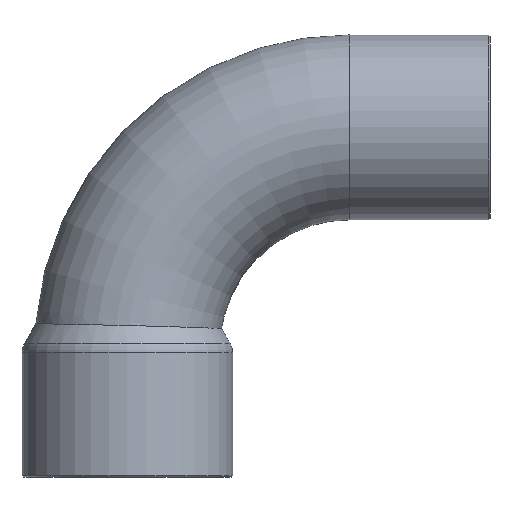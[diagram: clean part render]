
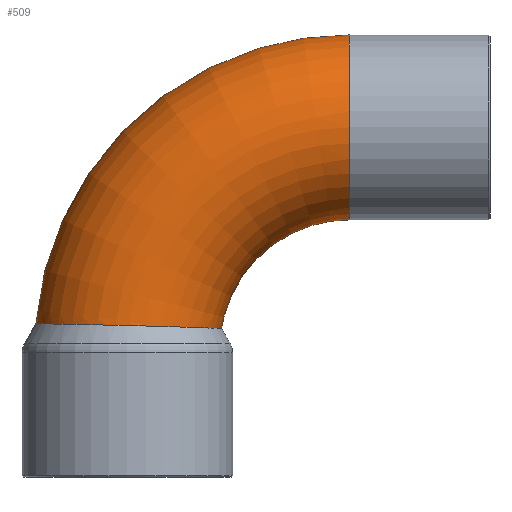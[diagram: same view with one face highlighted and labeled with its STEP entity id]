
A CAD part, left-side view. The second image highlights one B-rep face of the part: STEP entity #509.
In plain terms, the highlighted toroidal (fillet/blend) face has major radius 34.3 mm and minor radius 14.285 mm.
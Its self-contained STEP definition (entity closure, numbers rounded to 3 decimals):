
#360=CARTESIAN_POINT('',(0.,48.421,3.986));
#361=VERTEX_POINT('',#360);
#362=CARTESIAN_POINT('',(0.,48.421,3.986));
#363=CARTESIAN_POINT('',(-1.743,48.421,3.986));
#364=CARTESIAN_POINT('',(-3.472,48.101,3.981));
#365=CARTESIAN_POINT('',(-6.649,46.885,3.96));
#366=CARTESIAN_POINT('',(-8.083,46.025,3.945));
#367=CARTESIAN_POINT('',(-10.768,43.702,3.903));
#368=CARTESIAN_POINT('',(-11.937,42.192,3.875));
#369=CARTESIAN_POINT('',(-13.624,38.805,3.807));
#370=CARTESIAN_POINT('',(-14.124,36.96,3.767));
#371=CARTESIAN_POINT('',(-14.38,33.176,3.678));
#372=CARTESIAN_POINT('',(-14.132,31.274,3.63));
#373=CARTESIAN_POINT('',(-12.915,27.691,3.528));
#374=CARTESIAN_POINT('',(-11.964,26.041,3.477));
#375=CARTESIAN_POINT('',(-9.597,23.339,3.385));
#376=CARTESIAN_POINT('',(-8.252,22.266,3.345));
#377=CARTESIAN_POINT('',(-5.406,20.731,3.285));
#378=CARTESIAN_POINT('',(-3.955,20.227,3.264));
#379=CARTESIAN_POINT('',(-1.632,19.82,3.247));
#380=CARTESIAN_POINT('',(-0.801,19.749,3.244));
#381=CARTESIAN_POINT('',(0.87,19.752,3.244));
#382=CARTESIAN_POINT('',(1.706,19.828,3.247));
#383=CARTESIAN_POINT('',(4.044,20.252,3.265));
#384=CARTESIAN_POINT('',(5.503,20.77,3.286));
#385=CARTESIAN_POINT('',(8.507,22.422,3.351));
#386=CARTESIAN_POINT('',(9.967,23.653,3.396));
#387=CARTESIAN_POINT('',(12.274,26.544,3.493));
#388=CARTESIAN_POINT('',(13.125,28.159,3.542));
#389=CARTESIAN_POINT('',(14.169,31.569,3.637));
#390=CARTESIAN_POINT('',(14.372,33.331,3.682));
#391=CARTESIAN_POINT('',(14.131,36.836,3.765));
#392=CARTESIAN_POINT('',(13.691,38.55,3.802));
#393=CARTESIAN_POINT('',(12.206,41.751,3.867));
#394=CARTESIAN_POINT('',(11.167,43.208,3.894));
#395=CARTESIAN_POINT('',(8.584,45.69,3.939));
#396=CARTESIAN_POINT('',(7.056,46.684,3.957));
#397=CARTESIAN_POINT('',(3.674,48.063,3.98));
#398=CARTESIAN_POINT('',(1.846,48.421,3.986));
#399=CARTESIAN_POINT('',(0.,48.421,3.986));
#400=B_SPLINE_CURVE_WITH_KNOTS('',3,(#362,#363,#364,#365,#366,#367,#368,#369,#370,#371,#372,#373,#374,#375,#376,#377,#378,#379,#380,#381,#382,#383,#384,#385,#386,#387,#388,#389,#390,#391,#392,#393,#394,#395,#396,#397,#398,#399),.UNSPECIFIED.,.T.,.U.,(4,2,2,2,2,2,2,2,2,2,2,2,2,2,2,2,2,2,4),(-9.017,-8.494,-7.996,-7.429,-6.861,-6.291,-5.725,-5.213,-4.755,-4.505,-4.254,-3.792,-3.225,-2.682,-2.155,-1.628,-1.096,-0.554,0.0),.UNSPECIFIED.);
#401=EDGE_CURVE('',#361,#361,#400,.T.);
#490=CARTESIAN_POINT('',(0.0,0.0,0.0));
#491=DIRECTION('',(1.0,0.0,0.0));
#492=DIRECTION('',(0.0,0.0,-1.0));
#493=AXIS2_PLACEMENT_3D('',#490,#491,#492);
#494=TOROIDAL_SURFACE('',#493,34.3,14.285);
#495=CARTESIAN_POINT('',(14.285,0.,34.3));
#496=VERTEX_POINT('',#495);
#497=CARTESIAN_POINT('',(0.0,0.,34.3));
#498=DIRECTION('',(0.0,1.0,0.0));
#499=DIRECTION('',(-1.0,0.0,0.0));
#500=AXIS2_PLACEMENT_3D('',#497,#498,#499);
#501=CIRCLE('',#500,14.285);
#502=EDGE_CURVE('',#496,#496,#501,.T.);
#503=ORIENTED_EDGE('',*,*,#502,.T.);
#504=EDGE_LOOP('',(#503));
#505=FACE_OUTER_BOUND('',#504,.T.);
#506=ORIENTED_EDGE('',*,*,#401,.T.);
#507=EDGE_LOOP('',(#506));
#508=FACE_BOUND('',#507,.T.);
#509=ADVANCED_FACE('',(#505,#508),#494,.T.);
